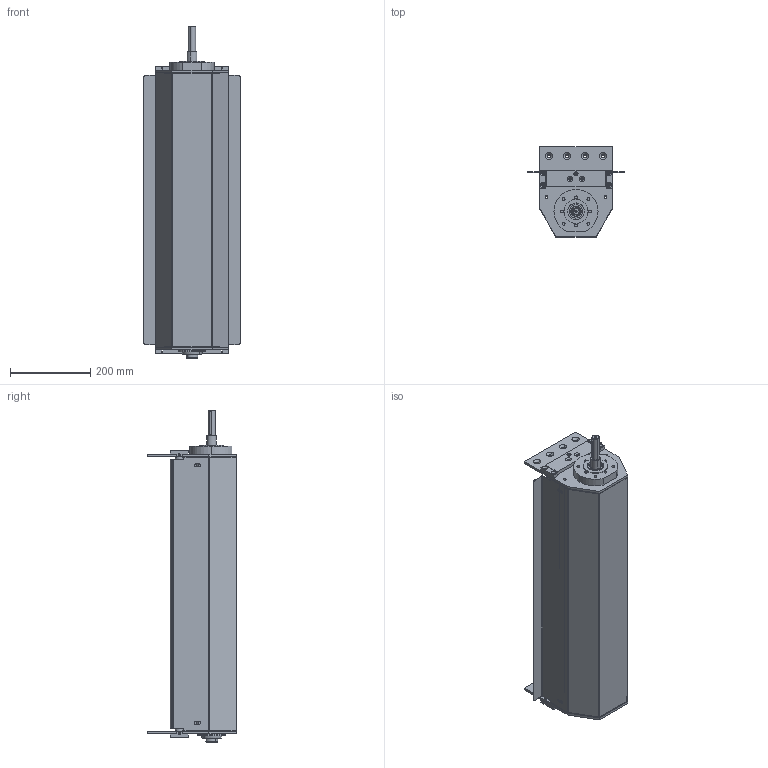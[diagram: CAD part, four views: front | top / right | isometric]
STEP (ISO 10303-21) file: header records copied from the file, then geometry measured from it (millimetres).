
FILE_DESCRIPTION (( 'STEP AP203' ), '1' );
FILE_NAME ('084.095.KCS.44.650.STEP', '2018-03-14T07:49:39', ( 'Localadmin' ), ( 'Microsoft' ), 'SwSTEP 2.0', 'SolidWorks 2016', '' );
FILE_SCHEMA (( 'CONFIG_CONTROL_DESIGN' ));
Length unit declared in the file: millimetre
Products named in the file (1): 084.095.KCS.44.650
Bounding box: 240 x 223 x 827 mm (x, y, z)
Surface area: 1496624.3 mm2 (no closed solid volume)
Topology: 0 solids, 49 shells, 459 faces, 1588 edges, 1166 vertices
Faces by surface type: plane 198, cylinder 189, cone 58, torus 10, sphere 4
Entity records: 17445 total; most frequent: CARTESIAN_POINT 3270, DIRECTION 3080, ORIENTED_EDGE 2464, EDGE_CURVE 1584, VERTEX_POINT 1164, AXIS2_PLACEMENT_3D 1038, VECTOR 1004, LINE 1004
